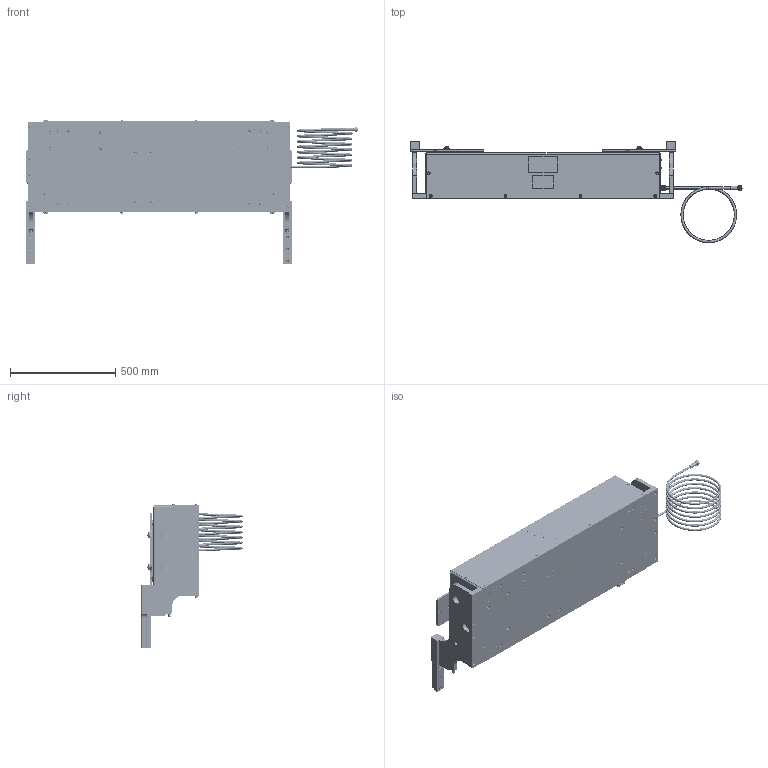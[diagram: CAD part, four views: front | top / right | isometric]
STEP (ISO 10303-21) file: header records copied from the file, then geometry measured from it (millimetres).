
FILE_DESCRIPTION (( 'STEP AP203' ), '1' );
FILE_NAME ('EGD-250-48 with T-Slot Mtg Brkts Only.STEP', '2016-10-26T18:51:58', ( 'paxadmin' ), ( 'Microsoft' ), 'SwSTEP 2.0', 'SolidWorks 2016', '' );
FILE_SCHEMA (( 'CONFIG_CONTROL_DESIGN' ));
Length unit declared in the file: inch
Products named in the file (1): EGD-250-48 with T-Slot Mtg Brkts Only
Bounding box: 1577.29 x 481.35 x 682.24 mm (x, y, z)
Volume: 24615049.3 mm3; surface area: 5013556.2 mm2
Topology: 117 solids, 117 shells, 3845 faces, 8497 edges, 4986 vertices
Faces by surface type: plane 1409, cylinder 1086, cone 1004, torus 276, bspline 54, sphere 16
Entity records: 111597 total; most frequent: CARTESIAN_POINT 25739, DIRECTION 19184, ORIENTED_EDGE 16618, EDGE_CURVE 8309, AXIS2_PLACEMENT_3D 7571, VERTEX_POINT 4978, EDGE_LOOP 4477, LINE 4042
